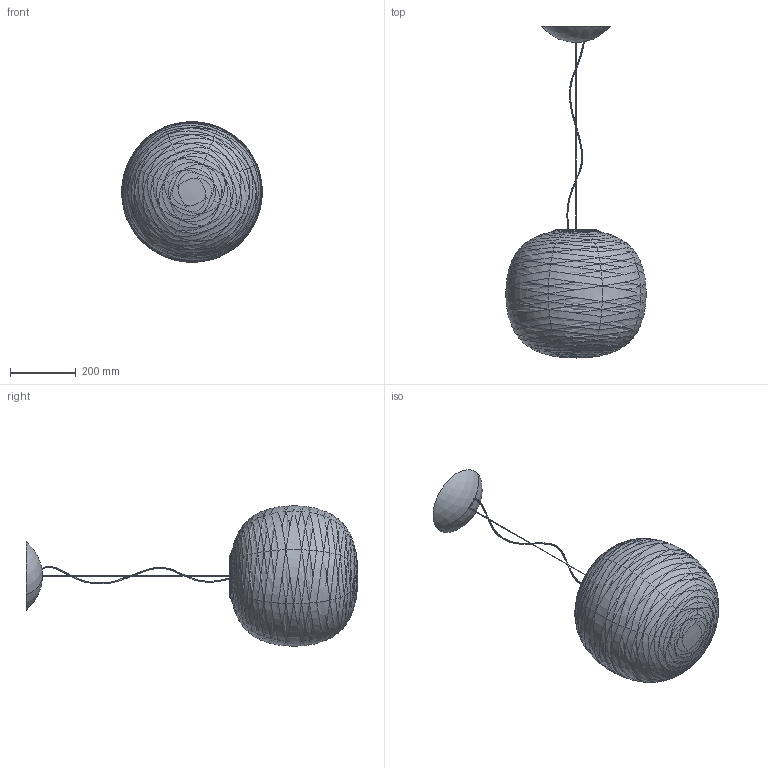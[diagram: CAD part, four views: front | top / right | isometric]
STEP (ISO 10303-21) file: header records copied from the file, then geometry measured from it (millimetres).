
FILE_DESCRIPTION (( 'STEP AP214' ), '1' );
FILE_NAME ('274_STD_S_LD_3D.STEP', '2021-05-20T07:28:00', ( '' ), ( '' ), 'SwSTEP 2.0', 'SolidWorks 2021', '' );
FILE_SCHEMA (( 'AUTOMOTIVE_DESIGN' ));
Length unit declared in the file: millimetre
Products named in the file (1): 274_STD_S_LD_3D
Bounding box: 428.31 x 1009.74 x 428.31 mm (x, y, z)
Volume: 3671683.5 mm3; surface area: 1252647.7 mm2
Topology: 6 solids, 6 shells, 2547 faces, 6407 edges, 3727 vertices
Faces by surface type: bspline 1369, cylinder 474, plane 473, cone 165, torus 52, sphere 14
Entity records: 214502 total; most frequent: CARTESIAN_POINT 140283, ORIENTED_EDGE 12402, EDGE_CURVE 6201, DIRECTION 4667, B_SPLINE_CURVE_WITH_KNOTS 4229, VERTEX_POINT 3717, EDGE_LOOP 2616, UNCERTAINTY_MEASURE_WITH_UNIT 2545
